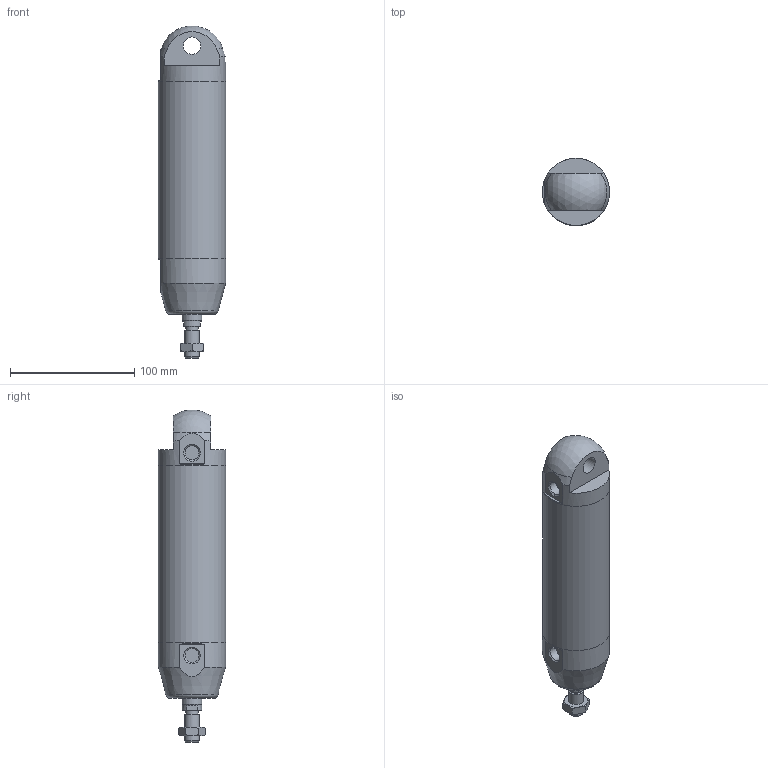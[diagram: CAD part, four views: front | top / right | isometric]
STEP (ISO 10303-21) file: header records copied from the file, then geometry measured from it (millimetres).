
FILE_DESCRIPTION(/* description */ (''),/* implementation_level */ '2;1');
FILE_NAME(/* name */ 'I:\Area Tecnica\Documenti\A-Manieri\_Inventor\12X\12X#A_###_####_#_#\12XAA_050_0100_#_#.stp',/* time_stamp */ '2015-04-22T12:07:18+02:00',/* author */ ('maniean1'),/* organization */ ('Pneumax S.p.A.'),/* preprocessor_version */ 'ST-DEVELOPER v15.2',/* originating_system */ 'Autodesk Inventor 2014',/* authorisation */ '');
FILE_SCHEMA (('AUTOMOTIVE_DESIGN { 1 0 10303 214 3 1 1 }'));
Length unit declared in the file: millimetre
Products named in the file (6): C1250_619-0100; 12X50_613; 12X50_605; S12X50_0100; 12X_50_11; 12XAA_050_0100_#_#
Bounding box: 54 x 54 x 266.83 mm (x, y, z)
Volume: 306926.2 mm3; surface area: 91380.8 mm2
Topology: 5 solids, 5 shells, 59 faces, 126 edges, 81 vertices
Faces by surface type: plane 31, cylinder 14, cone 12, torus 1, sphere 1
Full cylindrical faces by diameter (mm): 10.2 x1, 11.4 x2, 12 x2, 14 x2, 15.6 x1, 16 x1, 50 x2, 54 x3
Entity records: 1560 total; most frequent: CARTESIAN_POINT 288, DIRECTION 266, ORIENTED_EDGE 196, AXIS2_PLACEMENT_3D 120, EDGE_CURVE 98, EDGE_LOOP 94, VERTEX_POINT 76, ADVANCED_FACE 59
